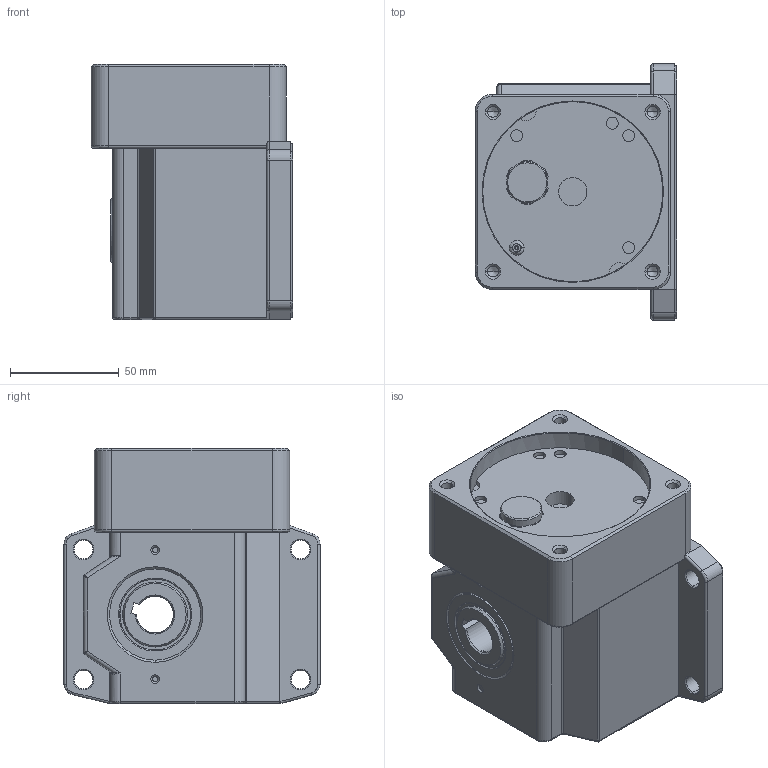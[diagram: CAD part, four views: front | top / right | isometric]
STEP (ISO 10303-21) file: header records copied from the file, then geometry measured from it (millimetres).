
FILE_DESCRIPTION (( 'STEP AP203' ), '1' );
FILE_NAME ('K9P｡滷RH.STEP', '2016-10-21T01:54:48', ( '' ), ( '' ), 'SwSTEP 2.0', 'SolidWorks 2016', '' );
FILE_SCHEMA (( 'CONFIG_CONTROL_DESIGN' ));
Length unit declared in the file: millimetre
Products named in the file (1): K9P﹤BRH
Bounding box: 93 x 118 x 117.5 mm (x, y, z)
Volume: 774427.6 mm3; surface area: 93164.8 mm2
Topology: 1 solids, 16 shells, 645 faces, 1592 edges, 1010 vertices
Faces by surface type: cylinder 229, plane 215, cone 130, bspline 71
Entity records: 31937 total; most frequent: CARTESIAN_POINT 17616, ORIENTED_EDGE 3154, DIRECTION 2626, EDGE_CURVE 1577, VERTEX_POINT 1010, AXIS2_PLACEMENT_3D 967, EDGE_LOOP 711, LINE 692
